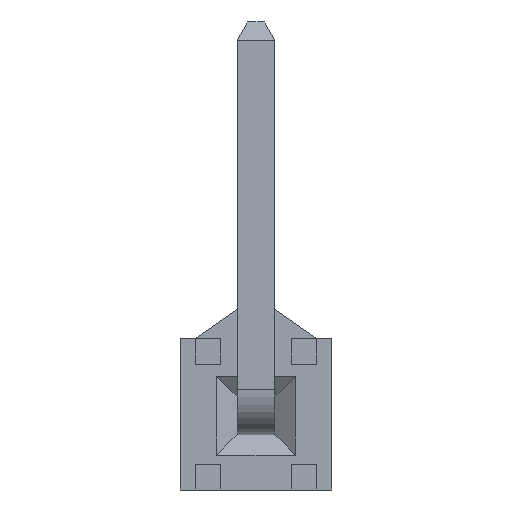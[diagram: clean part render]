
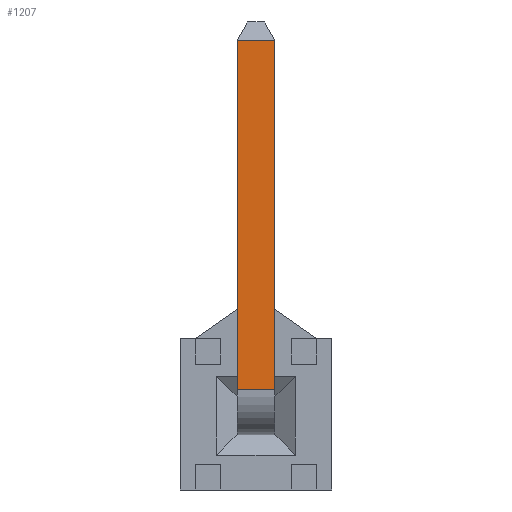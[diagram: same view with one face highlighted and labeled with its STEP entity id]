
A CAD part, front view. The second image highlights one B-rep face of the part: STEP entity #1207.
In plain terms, the highlighted planar face has unit normal (0, -1, 0).
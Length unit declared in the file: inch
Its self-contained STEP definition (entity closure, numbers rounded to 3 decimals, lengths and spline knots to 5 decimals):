
#325=ORIENTED_EDGE('',*,*,#482,.T.);
#326=ORIENTED_EDGE('',*,*,#519,.F.);
#327=ORIENTED_EDGE('',*,*,#469,.F.);
#328=ORIENTED_EDGE('',*,*,#466,.T.);
#466=EDGE_CURVE('',#591,#592,#734,.T.);
#469=EDGE_CURVE('',#591,#594,#737,.T.);
#482=EDGE_CURVE('',#592,#604,#746,.T.);
#519=EDGE_CURVE('',#594,#604,#783,.T.);
#591=VERTEX_POINT('',#1840);
#592=VERTEX_POINT('',#1842);
#594=VERTEX_POINT('',#1849);
#604=VERTEX_POINT('',#1872);
#734=LINE('',#1843,#894);
#737=LINE('',#1848,#897);
#746=LINE('',#1873,#906);
#783=LINE('',#1946,#943);
#894=VECTOR('',#1508,39.37008);
#897=VECTOR('',#1513,39.37008);
#906=VECTOR('',#1532,39.37008);
#943=VECTOR('',#1601,39.37008);
#1007=EDGE_LOOP('',(#325,#326,#327,#328));
#1077=FACE_BOUND('',#1007,.T.);
#1142=PLANE('',#1304);
#1207=ADVANCED_FACE('',(#1077),#1142,.F.);
#1304=AXIS2_PLACEMENT_3D('',#1945,#1599,#1600);
#1508=DIRECTION('',(-1.,0.,0.));
#1513=DIRECTION('',(0.,0.,-1.));
#1532=DIRECTION('',(0.,0.,-1.));
#1599=DIRECTION('',(0.,1.,0.));
#1600=DIRECTION('',(0.,0.,1.));
#1601=DIRECTION('',(-1.,0.,0.));
#1840=CARTESIAN_POINT('',(0.0125,-0.0125,0.248));
#1842=CARTESIAN_POINT('',(-0.0125,-0.0125,0.248));
#1843=CARTESIAN_POINT('',(0.0125,-0.0125,0.248));
#1848=CARTESIAN_POINT('',(0.0125,-0.0125,0.248));
#1849=CARTESIAN_POINT('',(0.0125,-0.0125,0.0175));
#1872=CARTESIAN_POINT('',(-0.0125,-0.0125,0.0175));
#1873=CARTESIAN_POINT('',(-0.0125,-0.0125,0.248));
#1945=CARTESIAN_POINT('',(0.0125,-0.0125,0.248));
#1946=CARTESIAN_POINT('',(0.0125,-0.0125,0.0175));
